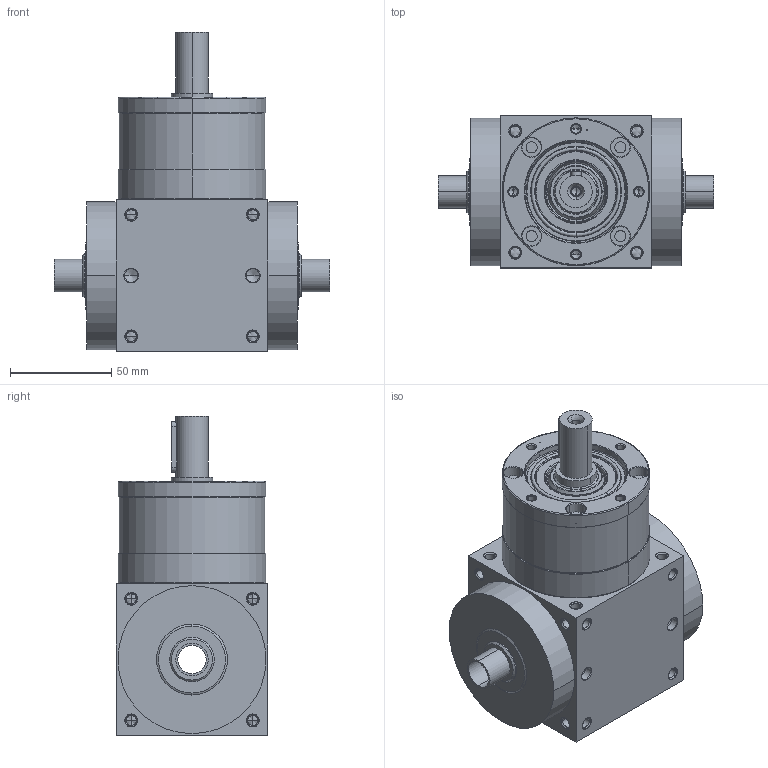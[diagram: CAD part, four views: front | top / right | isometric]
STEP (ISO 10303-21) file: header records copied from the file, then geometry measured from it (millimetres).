
FILE_DESCRIPTION((''),'2;1');
FILE_NAME('AT075C-1_ASM','2009-02-04T',('d00080'),(''),'PRO/ENGINEER BY PARAMETRIC TECHNOLOGY CORPORATION, 2006170','PRO/ENGINEER BY PARAMETRIC TECHNOLOGY CORPORATION, 2006170','');
FILE_SCHEMA(('CONFIG_CONTROL_DESIGN'));
Length unit declared in the file: millimetre
Products named in the file (6): AT075C-1; P1801300001; 22400071003; P1208300001; P0904301001; AT075C-1_ASM
Assembly tree (5 placements, depth 2):
  AT075C-1_ASM
    AT075C-1
    P1801300001
    22400071003
    P1208300001
    P0904301001
Bounding box: 136 x 75 x 157.5 mm (x, y, z)
Volume: 663301.3 mm3; surface area: 103517.2 mm2
Topology: 6 solids, 36 shells, 577 faces, 1439 edges, 854 vertices
Faces by surface type: cylinder 258, cone 202, plane 75, torus 38, bspline 4
Entity records: 17923 total; most frequent: CARTESIAN_POINT 4126, DIRECTION 3091, ORIENTED_EDGE 2632, EDGE_CURVE 1375, AXIS2_PLACEMENT_3D 1304, VERTEX_POINT 854, CIRCLE 712, EDGE_LOOP 674
